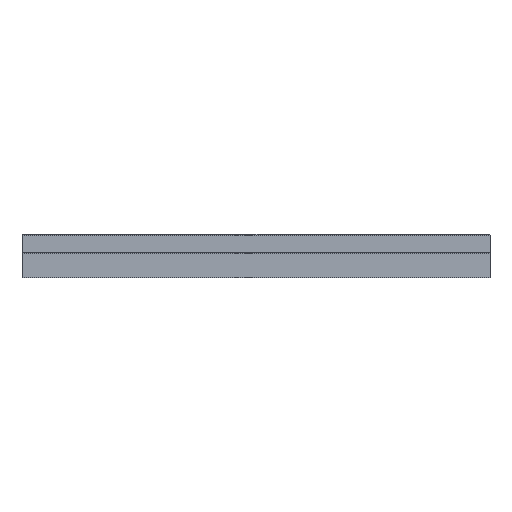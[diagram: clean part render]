
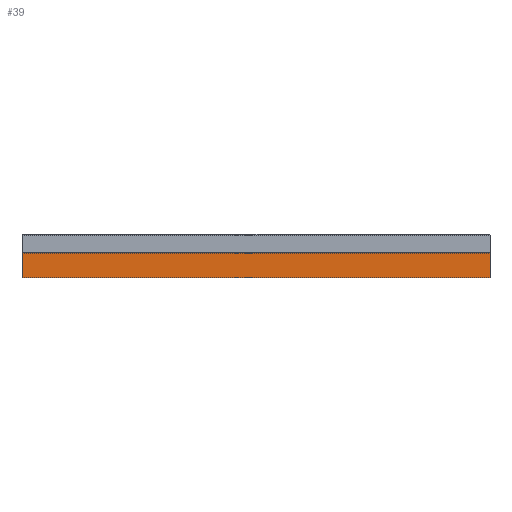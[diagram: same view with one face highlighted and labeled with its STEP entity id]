
A CAD part, left-side view. The second image highlights one B-rep face of the part: STEP entity #39.
In plain terms, the highlighted planar face has unit normal (-1, 0, 0).
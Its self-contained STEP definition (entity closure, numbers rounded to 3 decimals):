
#39 = ADVANCED_FACE('',(#40),#54,.F.);
#40 = FACE_BOUND('',#41,.F.);
#41 = EDGE_LOOP('',(#42,#77,#105,#133));
#42 = ORIENTED_EDGE('',*,*,#43,.F.);
#43 = EDGE_CURVE('',#44,#46,#48,.T.);
#44 = VERTEX_POINT('',#45);
#45 = CARTESIAN_POINT('',(-48.5,-51.,0.));
#46 = VERTEX_POINT('',#47);
#47 = CARTESIAN_POINT('',(-48.5,-51.,5.3));
#48 = SURFACE_CURVE('',#49,(#53,#65),.PCURVE_S1.);
#49 = LINE('',#50,#51);
#50 = CARTESIAN_POINT('',(-48.5,-51.,0.));
#51 = VECTOR('',#52,1.);
#52 = DIRECTION('',(0.,0.,1.));
#53 = PCURVE('',#54,#59);
#54 = PLANE('',#55);
#55 = AXIS2_PLACEMENT_3D('',#56,#57,#58);
#56 = CARTESIAN_POINT('',(-48.5,-51.,0.));
#57 = DIRECTION('',(1.,0.,0.));
#58 = DIRECTION('',(0.,0.,1.));
#59 = DEFINITIONAL_REPRESENTATION('',(#60),#64);
#60 = LINE('',#61,#62);
#61 = CARTESIAN_POINT('',(0.,0.));
#62 = VECTOR('',#63,1.);
#63 = DIRECTION('',(1.,0.));
#64 = ( GEOMETRIC_REPRESENTATION_CONTEXT(2) 
PARAMETRIC_REPRESENTATION_CONTEXT() REPRESENTATION_CONTEXT('2D SPACE',''
  ) );
#65 = PCURVE('',#66,#71);
#66 = PLANE('',#67);
#67 = AXIS2_PLACEMENT_3D('',#68,#69,#70);
#68 = CARTESIAN_POINT('',(-48.5,-51.,0.));
#69 = DIRECTION('',(0.,1.,0.));
#70 = DIRECTION('',(0.,-0.,1.));
#71 = DEFINITIONAL_REPRESENTATION('',(#72),#76);
#72 = LINE('',#73,#74);
#73 = CARTESIAN_POINT('',(0.,0.));
#74 = VECTOR('',#75,1.);
#75 = DIRECTION('',(1.,0.));
#76 = ( GEOMETRIC_REPRESENTATION_CONTEXT(2) 
PARAMETRIC_REPRESENTATION_CONTEXT() REPRESENTATION_CONTEXT('2D SPACE',''
  ) );
#77 = ORIENTED_EDGE('',*,*,#78,.T.);
#78 = EDGE_CURVE('',#44,#79,#81,.T.);
#79 = VERTEX_POINT('',#80);
#80 = CARTESIAN_POINT('',(-48.5,51.,0.));
#81 = SURFACE_CURVE('',#82,(#86,#93),.PCURVE_S1.);
#82 = LINE('',#83,#84);
#83 = CARTESIAN_POINT('',(-48.5,-51.,0.));
#84 = VECTOR('',#85,1.);
#85 = DIRECTION('',(0.,1.,0.));
#86 = PCURVE('',#54,#87);
#87 = DEFINITIONAL_REPRESENTATION('',(#88),#92);
#88 = LINE('',#89,#90);
#89 = CARTESIAN_POINT('',(0.,0.));
#90 = VECTOR('',#91,1.);
#91 = DIRECTION('',(0.,-1.));
#92 = ( GEOMETRIC_REPRESENTATION_CONTEXT(2) 
PARAMETRIC_REPRESENTATION_CONTEXT() REPRESENTATION_CONTEXT('2D SPACE',''
  ) );
#93 = PCURVE('',#94,#99);
#94 = PLANE('',#95);
#95 = AXIS2_PLACEMENT_3D('',#96,#97,#98);
#96 = CARTESIAN_POINT('',(-48.5,-51.,0.));
#97 = DIRECTION('',(0.,0.,1.));
#98 = DIRECTION('',(1.,0.,-0.));
#99 = DEFINITIONAL_REPRESENTATION('',(#100),#104);
#100 = LINE('',#101,#102);
#101 = CARTESIAN_POINT('',(0.,0.));
#102 = VECTOR('',#103,1.);
#103 = DIRECTION('',(0.,1.));
#104 = ( GEOMETRIC_REPRESENTATION_CONTEXT(2) 
PARAMETRIC_REPRESENTATION_CONTEXT() REPRESENTATION_CONTEXT('2D SPACE',''
  ) );
#105 = ORIENTED_EDGE('',*,*,#106,.T.);
#106 = EDGE_CURVE('',#79,#107,#109,.T.);
#107 = VERTEX_POINT('',#108);
#108 = CARTESIAN_POINT('',(-48.5,51.,5.3));
#109 = SURFACE_CURVE('',#110,(#114,#121),.PCURVE_S1.);
#110 = LINE('',#111,#112);
#111 = CARTESIAN_POINT('',(-48.5,51.,0.));
#112 = VECTOR('',#113,1.);
#113 = DIRECTION('',(0.,0.,1.));
#114 = PCURVE('',#54,#115);
#115 = DEFINITIONAL_REPRESENTATION('',(#116),#120);
#116 = LINE('',#117,#118);
#117 = CARTESIAN_POINT('',(0.,-102.));
#118 = VECTOR('',#119,1.);
#119 = DIRECTION('',(1.,0.));
#120 = ( GEOMETRIC_REPRESENTATION_CONTEXT(2) 
PARAMETRIC_REPRESENTATION_CONTEXT() REPRESENTATION_CONTEXT('2D SPACE',''
  ) );
#121 = PCURVE('',#122,#127);
#122 = PLANE('',#123);
#123 = AXIS2_PLACEMENT_3D('',#124,#125,#126);
#124 = CARTESIAN_POINT('',(-48.5,51.,0.));
#125 = DIRECTION('',(0.,1.,0.));
#126 = DIRECTION('',(0.,-0.,1.));
#127 = DEFINITIONAL_REPRESENTATION('',(#128),#132);
#128 = LINE('',#129,#130);
#129 = CARTESIAN_POINT('',(0.,0.));
#130 = VECTOR('',#131,1.);
#131 = DIRECTION('',(1.,0.));
#132 = ( GEOMETRIC_REPRESENTATION_CONTEXT(2) 
PARAMETRIC_REPRESENTATION_CONTEXT() REPRESENTATION_CONTEXT('2D SPACE',''
  ) );
#133 = ORIENTED_EDGE('',*,*,#134,.F.);
#134 = EDGE_CURVE('',#46,#107,#135,.T.);
#135 = SURFACE_CURVE('',#136,(#140,#147),.PCURVE_S1.);
#136 = LINE('',#137,#138);
#137 = CARTESIAN_POINT('',(-48.5,-51.,5.3));
#138 = VECTOR('',#139,1.);
#139 = DIRECTION('',(0.,1.,0.));
#140 = PCURVE('',#54,#141);
#141 = DEFINITIONAL_REPRESENTATION('',(#142),#146);
#142 = LINE('',#143,#144);
#143 = CARTESIAN_POINT('',(5.3,0.));
#144 = VECTOR('',#145,1.);
#145 = DIRECTION('',(0.,-1.));
#146 = ( GEOMETRIC_REPRESENTATION_CONTEXT(2) 
PARAMETRIC_REPRESENTATION_CONTEXT() REPRESENTATION_CONTEXT('2D SPACE',''
  ) );
#147 = PCURVE('',#148,#153);
#148 = PLANE('',#149);
#149 = AXIS2_PLACEMENT_3D('',#150,#151,#152);
#150 = CARTESIAN_POINT('',(-48.4,-51.,5.4));
#151 = DIRECTION('',(0.707,0.,-0.707)
  );
#152 = DIRECTION('',(0.,1.,0.));
#153 = DEFINITIONAL_REPRESENTATION('',(#154),#158);
#154 = LINE('',#155,#156);
#155 = CARTESIAN_POINT('',(0.,-0.141));
#156 = VECTOR('',#157,1.);
#157 = DIRECTION('',(1.,0.));
#158 = ( GEOMETRIC_REPRESENTATION_CONTEXT(2) 
PARAMETRIC_REPRESENTATION_CONTEXT() REPRESENTATION_CONTEXT('2D SPACE',''
  ) );
